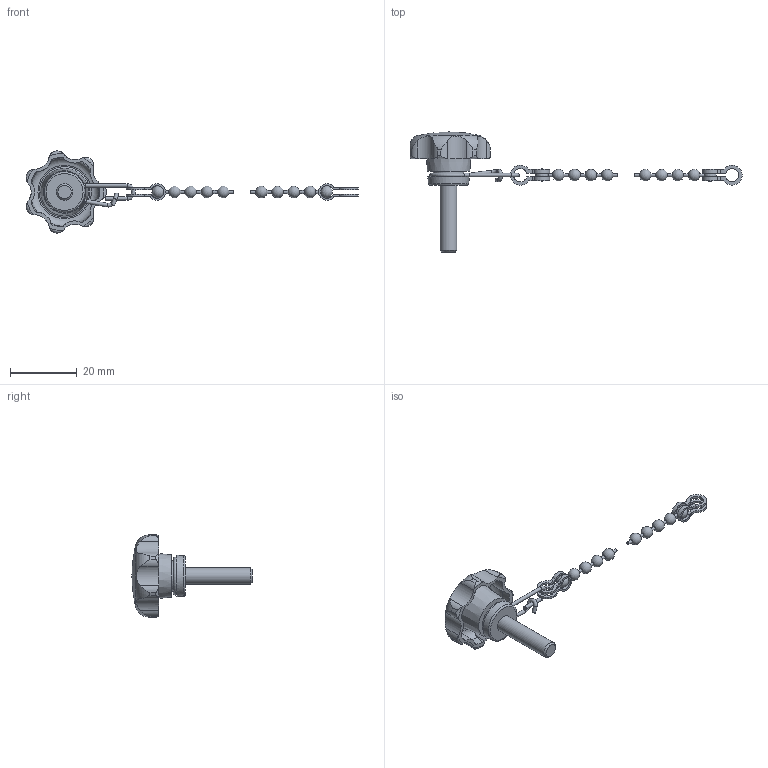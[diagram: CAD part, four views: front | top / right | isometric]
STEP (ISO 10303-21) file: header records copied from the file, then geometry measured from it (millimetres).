
FILE_DESCRIPTION( ( 'STEP AP203' ), '1' );
FILE_NAME( 'C:/Temp/Ganter_Step_05_03_2020/data/2_2/gn_6336_13/gn_6336_13_2/Star knob GN 6336.13-25-M5-20-K.stp', '2020-03-05T12:12:04', ( 'License CC BY-ND 4.0' ), ( 'CADENAS' ), ' ', 'PARTsolutions', ' ' );
FILE_SCHEMA( ( 'CONFIG_CONTROL_DESIGN' ) );
Length unit declared in the file: millimetre
Products named in the file (3): Star knob GN 6336.13-25-M5-20-K; _Star knob GN 6336.13-25-M5-20-K 6; _Star knob GN 111.5-200-14 k2
Assembly tree (2 placements, depth 2):
  Star knob GN 6336.13-25-M5-20-K
    _Star knob GN 6336.13-25-M5-20-K 6
    _Star knob GN 111.5-200-14 k2
Bounding box: 99.5 x 36 x 24.58 mm (x, y, z)
Volume: 3778.9 mm3; surface area: 3497.3 mm2
Topology: 2 solids, 2 shells, 169 faces, 488 edges, 315 vertices
Faces by surface type: cylinder 101, plane 28, torus 18, cone 11, sphere 11
Full cylindrical faces by diameter (mm): 0.9 x10, 1.1 x6, 5 x1, 9.1 x1
Entity records: 6044 total; most frequent: CARTESIAN_POINT 1785, DIRECTION 880, ORIENTED_EDGE 840, EDGE_CURVE 420, AXIS2_PLACEMENT_3D 379, VERTEX_POINT 300, EDGE_LOOP 221, CIRCLE 207
